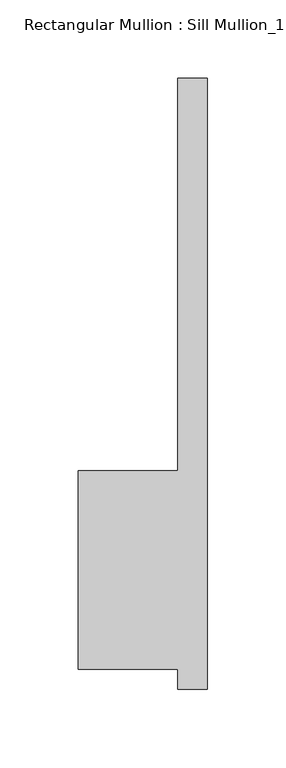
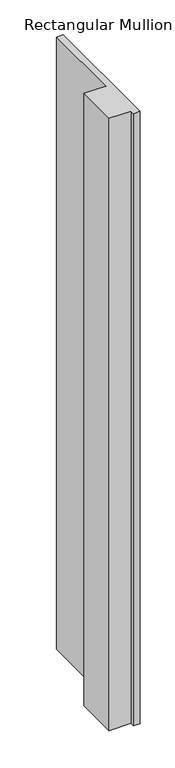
"""IFC4 building model written with IfcOpenShell, lengths in millimetres: member geometry."""

from ifc_helpers import new_model, si_unit, frame, origin, place, context, project, spatial, polyline, outline, extrude, source, transform, mapped, element, save


def member_b33d3071(model_context):
    return source(origin(), model_context, "Body", "SweptSolid", [
        extrude(outline(polyline([(-82.55, 50.8), (-19.05, 50.8), (-19.05, 301.625), (0.0, 301.625), (0.0, -88.9), (-19.05, -88.9), (-19.05, -76.2), (-82.55, -76.2), (-82.55, 50.8)])), frame((0.0, 0.0, -1893.57), z_axis=(0.0, 0.0, 1.0), x_axis=(1.0, 0.0, 0.0)), (0.0, 0.0, 1.0), 1893.57),
    ])


if __name__ == "__main__":
    model = new_model("IFC4")
    model_context = context("Model", 3, world=origin())
    ifc_project = project(units=[si_unit("LENGTHUNIT", "METRE", prefix="MILLI")], contexts=[model_context])
    site = spatial("IfcSite", under=ifc_project)
    building = spatial("IfcBuilding", under=site)
    placement = place(None, origin())
    member_shape = member_b33d3071(model_context)
    element("IfcMember", 1, ObjectType="Rectangular Mullion : Sill Mullion_15\" thick wall", at=placement, inside=building, context=model_context, shape_type="MappedRepresentation", body=[
        mapped(member_shape, transform((0.0, 0.0, 0.0), x_axis=(1.0, 0.0, 0.0), y_axis=(0.0, 1.0, 0.0), z_axis=(0.0, 0.0, 1.0))),
    ])
    save(model, "model.ifc")
